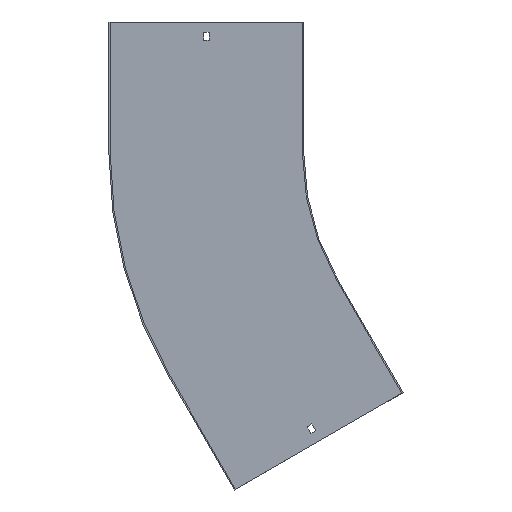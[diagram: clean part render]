
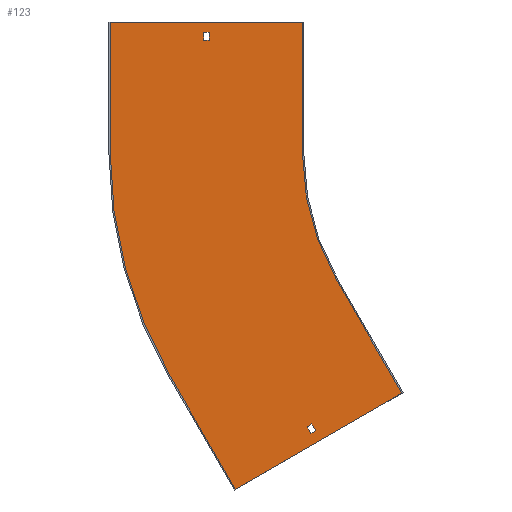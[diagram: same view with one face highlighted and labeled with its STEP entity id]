
A CAD part, front view. The second image highlights one B-rep face of the part: STEP entity #123.
In plain terms, the highlighted planar face has unit normal (0, -1, 0).
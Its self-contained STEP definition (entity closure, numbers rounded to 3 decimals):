
#9 = CARTESIAN_POINT ( 'NONE',  ( -510., -1.5, 0. ) ) ;
#10 = AXIS2_PLACEMENT_3D ( 'NONE', #619, #827, #361 ) ;
#12 = VERTEX_POINT ( 'NONE', #810 ) ;
#16 = ORIENTED_EDGE ( 'NONE', *, *, #34, .F. ) ;
#20 = ORIENTED_EDGE ( 'NONE', *, *, #402, .F. ) ;
#23 = DIRECTION ( 'NONE',  ( 1., 0., 0. ) ) ;
#31 = VERTEX_POINT ( 'NONE', #285 ) ;
#33 = CARTESIAN_POINT ( 'NONE',  ( -510., -1.5, 150. ) ) ;
#34 = EDGE_CURVE ( 'NONE', #504, #12, #552, .T. ) ;
#46 = ORIENTED_EDGE ( 'NONE', *, *, #832, .F. ) ;
#50 = EDGE_LOOP ( 'NONE', ( #184, #692, #20, #46, #131, #16, #549, #103 ) ) ;
#55 = ORIENTED_EDGE ( 'NONE', *, *, #821, .F. ) ;
#68 = CARTESIAN_POINT ( 'NONE',  ( 0., -1.5, 138. ) ) ;
#71 = VERTEX_POINT ( 'NONE', #33 ) ;
#81 = ORIENTED_EDGE ( 'NONE', *, *, #640, .F. ) ;
#83 = DIRECTION ( 'NONE',  ( -0.866, 0., -0.5 ) ) ;
#95 = VECTOR ( 'NONE', #476, 1000. ) ;
#103 = ORIENTED_EDGE ( 'NONE', *, *, #855, .F. ) ;
#109 = CARTESIAN_POINT ( 'NONE',  ( 0., -1.5, 129. ) ) ;
#121 = DIRECTION ( 'NONE',  ( -0.866, 0., -0.5 ) ) ;
#123 = ADVANCED_FACE ( 'NONE', ( #427, #634, #700 ), #571, .T. ) ;
#131 = ORIENTED_EDGE ( 'NONE', *, *, #366, .F. ) ;
#134 = VECTOR ( 'NONE', #121, 1000. ) ;
#172 = LINE ( 'NONE', #109, #815 ) ;
#184 = ORIENTED_EDGE ( 'NONE', *, *, #420, .F. ) ;
#193 = CARTESIAN_POINT ( 'NONE',  ( 69., -1.5, -119.512 ) ) ;
#194 = VERTEX_POINT ( 'NONE', #592 ) ;
#199 = LINE ( 'NONE', #9, #649 ) ;
#201 = EDGE_CURVE ( 'NONE', #391, #504, #596, .T. ) ;
#205 = VECTOR ( 'NONE', #684, 1000. ) ;
#207 = DIRECTION ( 'NONE',  ( 0.5, 0., -0.866 ) ) ;
#210 = CARTESIAN_POINT ( 'NONE',  ( -279.096, -1.5, -310.092 ) ) ;
#212 = DIRECTION ( 'NONE',  ( 0., 0., -1. ) ) ;
#219 = VECTOR ( 'NONE', #479, 1000. ) ;
#230 = CARTESIAN_POINT ( 'NONE',  ( -290., -1.5, 0. ) ) ;
#231 = AXIS2_PLACEMENT_3D ( 'NONE', #691, #561, #507 ) ;
#236 = EDGE_CURVE ( 'NONE', #610, #31, #657, .T. ) ;
#269 = CARTESIAN_POINT ( 'NONE',  ( -510., -1.5, 0. ) ) ;
#280 = LINE ( 'NONE', #463, #471 ) ;
#285 = CARTESIAN_POINT ( 'NONE',  ( -274.596, -1.5, -317.887 ) ) ;
#308 = CARTESIAN_POINT ( 'NONE',  ( -280.225, -1.5, -321.137 ) ) ;
#332 = DIRECTION ( 'NONE',  ( 0.5, 0., -0.866 ) ) ;
#335 = CARTESIAN_POINT ( 'NONE',  ( -396.75, -1.5, 138. ) ) ;
#339 = CARTESIAN_POINT ( 'NONE',  ( -403.25, -1.5, 0. ) ) ;
#343 = EDGE_CURVE ( 'NONE', #745, #71, #199, .T. ) ;
#353 = LINE ( 'NONE', #812, #205 ) ;
#356 = VERTEX_POINT ( 'NONE', #210 ) ;
#357 = EDGE_CURVE ( 'NONE', #31, #356, #744, .T. ) ;
#358 = CARTESIAN_POINT ( 'NONE',  ( -403.25, -1.5, 138. ) ) ;
#361 = DIRECTION ( 'NONE',  ( 0., 0., -1. ) ) ;
#364 = CARTESIAN_POINT ( 'NONE',  ( -251.147, -1.5, -145. ) ) ;
#366 = EDGE_CURVE ( 'NONE', #12, #528, #412, .T. ) ;
#368 = CARTESIAN_POINT ( 'NONE',  ( 64.5, -1.5, -111.717 ) ) ;
#373 = CARTESIAN_POINT ( 'NONE',  ( -403.25, -1.5, 129. ) ) ;
#379 = CARTESIAN_POINT ( 'NONE',  ( -396.75, -1.5, 129. ) ) ;
#386 = DIRECTION ( 'NONE',  ( 0., 0., -1. ) ) ;
#388 = ORIENTED_EDGE ( 'NONE', *, *, #236, .F. ) ;
#391 = VERTEX_POINT ( 'NONE', #230 ) ;
#402 = EDGE_CURVE ( 'NONE', #194, #745, #411, .T. ) ;
#409 = VERTEX_POINT ( 'NONE', #358 ) ;
#411 = CIRCLE ( 'NONE', #10, 510. ) ;
#412 = LINE ( 'NONE', #680, #831 ) ;
#420 = EDGE_CURVE ( 'NONE', #71, #615, #434, .T. ) ;
#422 = CARTESIAN_POINT ( 'NONE',  ( -511.5, -1.5, 150. ) ) ;
#427 = FACE_BOUND ( 'NONE', #516, .T. ) ;
#434 = LINE ( 'NONE', #422, #582 ) ;
#460 = LINE ( 'NONE', #732, #833 ) ;
#463 = CARTESIAN_POINT ( 'NONE',  ( -349.225, -1.5, -201.625 ) ) ;
#466 = VECTOR ( 'NONE', #207, 1000. ) ;
#469 = AXIS2_PLACEMENT_3D ( 'NONE', #710, #772, #386 ) ;
#471 = VECTOR ( 'NONE', #332, 1000. ) ;
#476 = DIRECTION ( 'NONE',  ( 0., 0., 1. ) ) ;
#479 = DIRECTION ( 'NONE',  ( 1., 0., 0. ) ) ;
#481 = CARTESIAN_POINT ( 'NONE',  ( -343.596, -1.5, -198.375 ) ) ;
#501 = VECTOR ( 'NONE', #781, 1000. ) ;
#504 = VERTEX_POINT ( 'NONE', #364 ) ;
#507 = DIRECTION ( 'NONE',  ( 0., 0., -1. ) ) ;
#516 = EDGE_LOOP ( 'NONE', ( #629, #388, #55, #81 ) ) ;
#518 = CARTESIAN_POINT ( 'NONE',  ( -366.673, -1.5, -384.904 ) ) ;
#526 = VECTOR ( 'NONE', #747, 1000. ) ;
#528 = VERTEX_POINT ( 'NONE', #518 ) ;
#547 = DIRECTION ( 'NONE',  ( -0.5, 0., 0.866 ) ) ;
#549 = ORIENTED_EDGE ( 'NONE', *, *, #201, .F. ) ;
#552 = LINE ( 'NONE', #801, #466 ) ;
#561 = DIRECTION ( 'NONE',  ( 0., -1., 0. ) ) ;
#566 = VERTEX_POINT ( 'NONE', #379 ) ;
#571 = PLANE ( 'NONE',  #231 ) ;
#582 = VECTOR ( 'NONE', #23, 1000. ) ;
#588 = EDGE_CURVE ( 'NONE', #566, #663, #172, .T. ) ;
#591 = LINE ( 'NONE', #368, #134 ) ;
#592 = CARTESIAN_POINT ( 'NONE',  ( -441.673, -1.5, -255. ) ) ;
#595 = LINE ( 'NONE', #68, #219 ) ;
#596 = CIRCLE ( 'NONE', #469, 290. ) ;
#601 = ORIENTED_EDGE ( 'NONE', *, *, #731, .T. ) ;
#602 = LINE ( 'NONE', #606, #722 ) ;
#603 = DIRECTION ( 'NONE',  ( 0., 0., 1. ) ) ;
#605 = ORIENTED_EDGE ( 'NONE', *, *, #588, .T. ) ;
#606 = CARTESIAN_POINT ( 'NONE',  ( -396.75, -1.5, 0. ) ) ;
#610 = VERTEX_POINT ( 'NONE', #308 ) ;
#615 = VERTEX_POINT ( 'NONE', #719 ) ;
#619 = CARTESIAN_POINT ( 'NONE',  ( 0., -1.5, 0. ) ) ;
#629 = ORIENTED_EDGE ( 'NONE', *, *, #357, .F. ) ;
#634 = FACE_OUTER_BOUND ( 'NONE', #50, .T. ) ;
#640 = EDGE_CURVE ( 'NONE', #356, #836, #591, .T. ) ;
#649 = VECTOR ( 'NONE', #603, 1000. ) ;
#657 = LINE ( 'NONE', #193, #501 ) ;
#663 = VERTEX_POINT ( 'NONE', #373 ) ;
#669 = LINE ( 'NONE', #339, #95 ) ;
#676 = ORIENTED_EDGE ( 'NONE', *, *, #695, .T. ) ;
#680 = CARTESIAN_POINT ( 'NONE',  ( -174.848, -1.5, -274.154 ) ) ;
#684 = DIRECTION ( 'NONE',  ( 0., 0., -1. ) ) ;
#689 = EDGE_CURVE ( 'NONE', #663, #409, #669, .T. ) ;
#691 = CARTESIAN_POINT ( 'NONE',  ( 0., -1.5, 0. ) ) ;
#692 = ORIENTED_EDGE ( 'NONE', *, *, #343, .F. ) ;
#695 = EDGE_CURVE ( 'NONE', #797, #566, #602, .T. ) ;
#700 = FACE_BOUND ( 'NONE', #829, .T. ) ;
#710 = CARTESIAN_POINT ( 'NONE',  ( 0., -1.5, 0. ) ) ;
#719 = CARTESIAN_POINT ( 'NONE',  ( -290., -1.5, 150. ) ) ;
#722 = VECTOR ( 'NONE', #212, 1000. ) ;
#731 = EDGE_CURVE ( 'NONE', #409, #797, #595, .T. ) ;
#732 = CARTESIAN_POINT ( 'NONE',  ( -366.673, -1.5, -384.904 ) ) ;
#744 = LINE ( 'NONE', #481, #526 ) ;
#745 = VERTEX_POINT ( 'NONE', #269 ) ;
#747 = DIRECTION ( 'NONE',  ( -0.5, 0., 0.866 ) ) ;
#772 = DIRECTION ( 'NONE',  ( 0., -1., 0. ) ) ;
#780 = DIRECTION ( 'NONE',  ( -1., 0., 0. ) ) ;
#781 = DIRECTION ( 'NONE',  ( 0.866, 0., 0.5 ) ) ;
#797 = VERTEX_POINT ( 'NONE', #335 ) ;
#801 = CARTESIAN_POINT ( 'NONE',  ( -251.147, -1.5, -145. ) ) ;
#808 = CARTESIAN_POINT ( 'NONE',  ( -284.725, -1.5, -313.342 ) ) ;
#810 = CARTESIAN_POINT ( 'NONE',  ( -176.147, -1.5, -274.904 ) ) ;
#812 = CARTESIAN_POINT ( 'NONE',  ( -290., -1.5, 150. ) ) ;
#815 = VECTOR ( 'NONE', #780, 1000. ) ;
#821 = EDGE_CURVE ( 'NONE', #836, #610, #280, .T. ) ;
#827 = DIRECTION ( 'NONE',  ( 0., 1., 0. ) ) ;
#829 = EDGE_LOOP ( 'NONE', ( #601, #676, #605, #842 ) ) ;
#831 = VECTOR ( 'NONE', #83, 1000. ) ;
#832 = EDGE_CURVE ( 'NONE', #528, #194, #460, .T. ) ;
#833 = VECTOR ( 'NONE', #547, 1000. ) ;
#836 = VERTEX_POINT ( 'NONE', #808 ) ;
#842 = ORIENTED_EDGE ( 'NONE', *, *, #689, .T. ) ;
#855 = EDGE_CURVE ( 'NONE', #615, #391, #353, .T. ) ;
